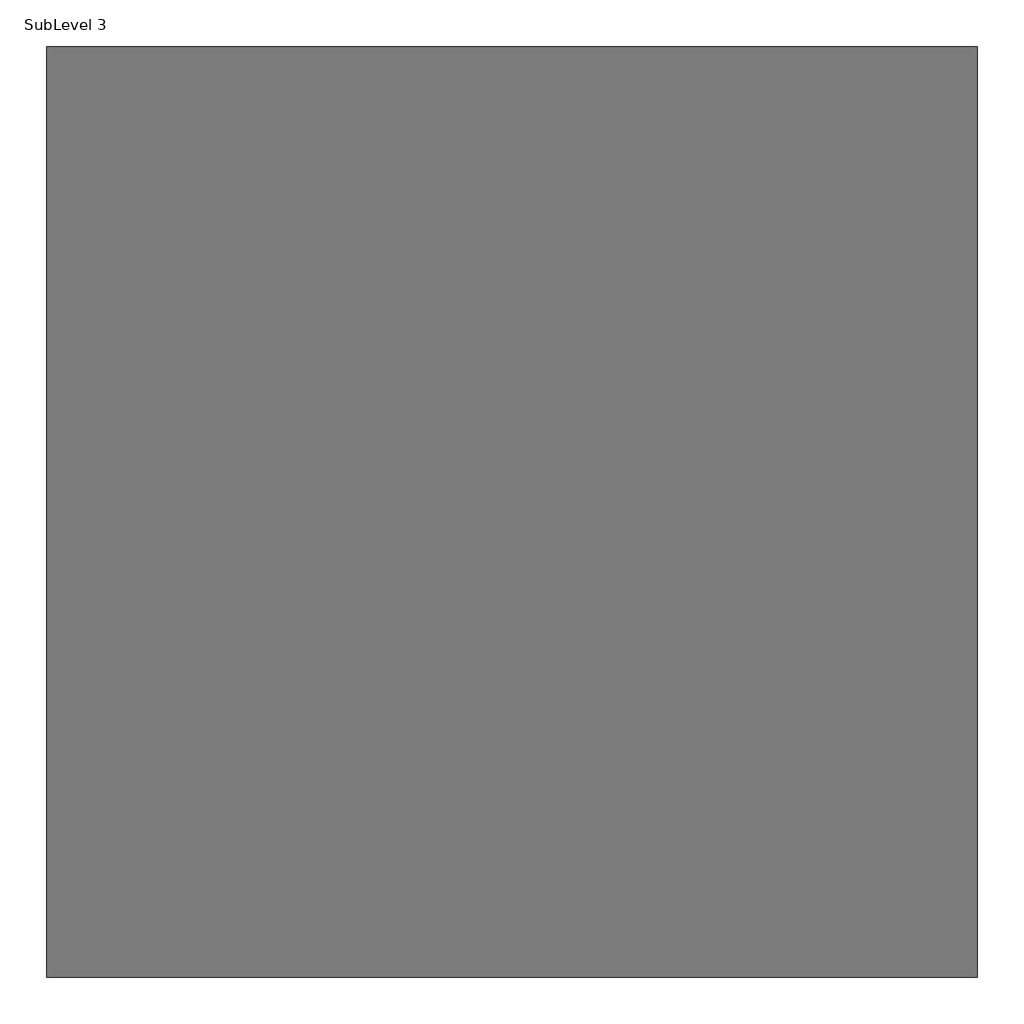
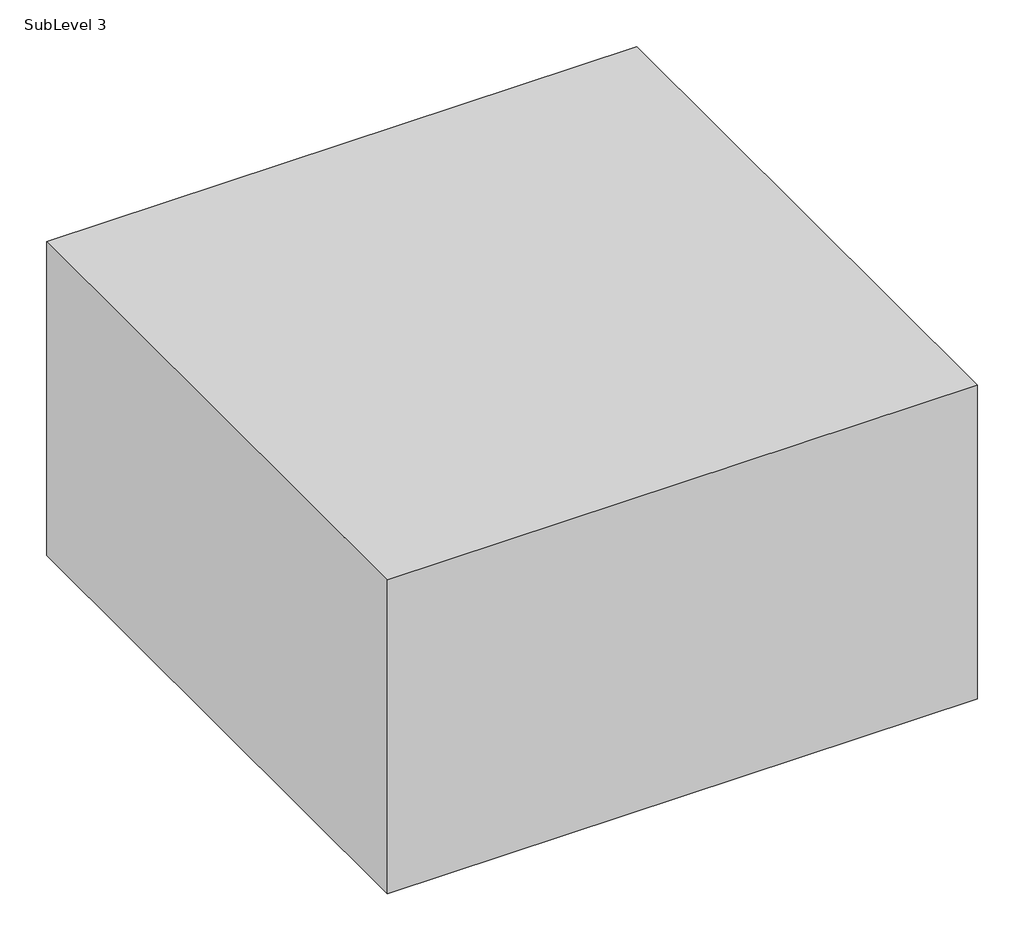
# One storey: 1 proxy.
"""IFC4 building model written with IfcOpenShell, lengths in millimetres."""

from ifc_helpers import new_model, si_unit, frame, origin, place, context, project, spatial, polyline, outline, extrude, element, save

model = new_model("IFC4")

# Units and contexts
model_context = context("Model", 3, world=origin())
ifc_project = project(units=[si_unit("LENGTHUNIT", "METRE", prefix="MILLI")], contexts=[model_context])

# Site, building, storey
site = spatial("IfcSite", under=ifc_project)
building = spatial("IfcBuilding", under=site)
storey = spatial("IfcBuildingStorey", under=building, Name="SubLevel 3", Elevation=-13716.0)

# Proxy
placement = place(None, origin())
element("IfcBuildingElementProxy", 1, Name="Mass 6 : Mass 6", ObjectType="Mass 6 : Mass 6", at=placement, inside=storey, context=model_context, shape_type="SweptSolid", body=[
    extrude(outline(polyline([(8517.7973043, 11822.6291012), (8517.7973043, -12561.3708988), (-15866.2026957, -12561.3708988), (-15866.2026957, 11822.6291012), (8517.7973043, 11822.6291012)])), frame((0.0, 0.0, -13716.0), z_axis=(0.0, 0.0, 1.0), x_axis=(1.0, 0.0, 0.0)), (0.0, 0.0, 1.0), 13716.0),
])

save(model, "model.ifc")
